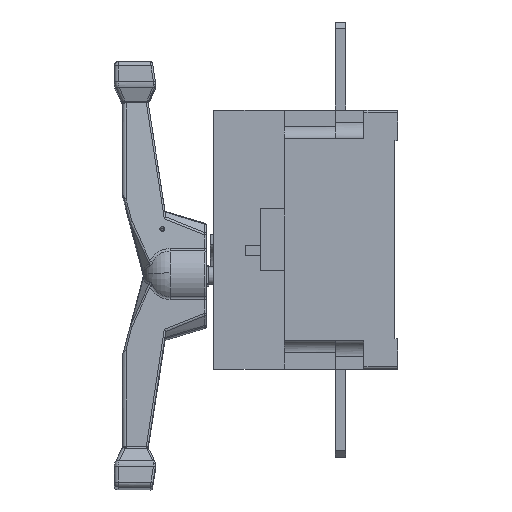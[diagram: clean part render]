
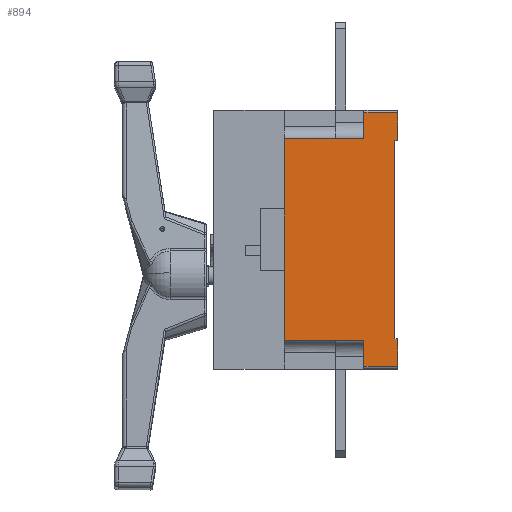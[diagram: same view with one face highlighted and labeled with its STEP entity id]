
A CAD part, left-side view. The second image highlights one B-rep face of the part: STEP entity #894.
In plain terms, the highlighted planar face has unit normal (-1, 0, 0).
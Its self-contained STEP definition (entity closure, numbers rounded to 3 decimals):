
#894 = ADVANCED_FACE ( 'NONE', ( #44018 ), #49396, .F. ) ;
#1069 = DIRECTION ( 'NONE',  ( 0., 1., 0. ) ) ;
#1484 = DIRECTION ( 'NONE',  ( 0., 0., -1. ) ) ;
#1544 = EDGE_CURVE ( 'NONE', #36901, #56916, #28977, .T. ) ;
#2174 = LINE ( 'NONE', #29940, #25202 ) ;
#2710 = ORIENTED_EDGE ( 'NONE', *, *, #36210, .F. ) ;
#3309 = VECTOR ( 'NONE', #1069, 1000. ) ;
#3620 = VECTOR ( 'NONE', #46026, 1000. ) ;
#4045 = VECTOR ( 'NONE', #46392, 1000. ) ;
#4417 = CARTESIAN_POINT ( 'NONE',  ( -246.5, 85.5, -78. ) ) ;
#5357 = CARTESIAN_POINT ( 'NONE',  ( -246.5, 24., 100. ) ) ;
#5422 = ORIENTED_EDGE ( 'NONE', *, *, #1544, .F. ) ;
#5719 = LINE ( 'NONE', #32320, #57005 ) ;
#5727 = CARTESIAN_POINT ( 'NONE',  ( -246.5, 24., 78.3 ) ) ;
#5987 = DIRECTION ( 'NONE',  ( 0., 0., 1. ) ) ;
#8301 = VECTOR ( 'NONE', #23011, 1000. ) ;
#8439 = CARTESIAN_POINT ( 'NONE',  ( -246.5, 24., -78.3 ) ) ;
#8494 = DIRECTION ( 'NONE',  ( 1., 0., 0. ) ) ;
#8511 = EDGE_CURVE ( 'NONE', #56255, #21963, #2174, .T. ) ;
#8619 = VERTEX_POINT ( 'NONE', #39202 ) ;
#8687 = DIRECTION ( 'NONE',  ( 0., 0., 1. ) ) ;
#8808 = CARTESIAN_POINT ( 'NONE',  ( -246.5, 85.5, 78. ) ) ;
#9343 = ORIENTED_EDGE ( 'NONE', *, *, #42356, .T. ) ;
#9541 = ORIENTED_EDGE ( 'NONE', *, *, #43394, .F. ) ;
#9899 = DIRECTION ( 'NONE',  ( 0., 1., 0. ) ) ;
#10190 = CARTESIAN_POINT ( 'NONE',  ( -246.5, 46., 78. ) ) ;
#10401 = CARTESIAN_POINT ( 'NONE',  ( -246.5, -2., -76.5 ) ) ;
#11124 = ORIENTED_EDGE ( 'NONE', *, *, #56620, .F. ) ;
#11507 = CARTESIAN_POINT ( 'NONE',  ( -246.5, -2., -76.5 ) ) ;
#11729 = DIRECTION ( 'NONE',  ( 0., 0., 1. ) ) ;
#12205 = CARTESIAN_POINT ( 'NONE',  ( -246.5, 24., -98. ) ) ;
#12983 = EDGE_CURVE ( 'NONE', #49390, #38819, #38176, .T. ) ;
#13106 = LINE ( 'NONE', #13665, #53897 ) ;
#13665 = CARTESIAN_POINT ( 'NONE',  ( -246.5, -2., 100. ) ) ;
#13688 = VECTOR ( 'NONE', #8687, 1000. ) ;
#14308 = VERTEX_POINT ( 'NONE', #12205 ) ;
#14381 = LINE ( 'NONE', #5727, #3620 ) ;
#14426 = ORIENTED_EDGE ( 'NONE', *, *, #25855, .F. ) ;
#14645 = CARTESIAN_POINT ( 'NONE',  ( -246.5, 24., -100. ) ) ;
#17327 = VECTOR ( 'NONE', #30386, 1000. ) ;
#17364 = VECTOR ( 'NONE', #5987, 1000. ) ;
#17678 = LINE ( 'NONE', #8439, #48241 ) ;
#17876 = CARTESIAN_POINT ( 'NONE',  ( -246.5, 46., -78. ) ) ;
#21318 = VECTOR ( 'NONE', #1484, 1000. ) ;
#21392 = CARTESIAN_POINT ( 'NONE',  ( -246.5, 0., -100. ) ) ;
#21963 = VERTEX_POINT ( 'NONE', #8808 ) ;
#22133 = LINE ( 'NONE', #44547, #32679 ) ;
#22684 = EDGE_CURVE ( 'NONE', #36793, #8619, #13106, .T. ) ;
#23011 = DIRECTION ( 'NONE',  ( 0., 1., 0. ) ) ;
#25202 = VECTOR ( 'NONE', #11729, 1000. ) ;
#25817 = CARTESIAN_POINT ( 'NONE',  ( -246.5, 85.5, -100. ) ) ;
#25855 = EDGE_CURVE ( 'NONE', #49728, #56255, #57892, .T. ) ;
#25947 = DIRECTION ( 'NONE',  ( 0., 1., 0. ) ) ;
#26276 = EDGE_CURVE ( 'NONE', #32585, #40057, #49471, .T. ) ;
#26337 = DIRECTION ( 'NONE',  ( 0., 0., 1. ) ) ;
#28192 = CARTESIAN_POINT ( 'NONE',  ( -246.5, 46., -98. ) ) ;
#28830 = ORIENTED_EDGE ( 'NONE', *, *, #22684, .F. ) ;
#28977 = LINE ( 'NONE', #55555, #17364 ) ;
#29015 = EDGE_CURVE ( 'NONE', #46077, #45041, #33716, .T. ) ;
#29627 = VECTOR ( 'NONE', #41482, 1000. ) ;
#29940 = CARTESIAN_POINT ( 'NONE',  ( -246.5, 85.5, -100. ) ) ;
#30386 = DIRECTION ( 'NONE',  ( 0., 0., 1. ) ) ;
#30688 = VECTOR ( 'NONE', #25947, 1000. ) ;
#30945 = CARTESIAN_POINT ( 'NONE',  ( -246.5, 46., -78. ) ) ;
#31731 = ORIENTED_EDGE ( 'NONE', *, *, #51583, .F. ) ;
#32320 = CARTESIAN_POINT ( 'NONE',  ( -246.5, -2., 76.5 ) ) ;
#32388 = LINE ( 'NONE', #28192, #4045 ) ;
#32585 = VERTEX_POINT ( 'NONE', #45255 ) ;
#32679 = VECTOR ( 'NONE', #26337, 1000. ) ;
#32786 = DIRECTION ( 'NONE',  ( 0., 1., 0. ) ) ;
#33200 = ORIENTED_EDGE ( 'NONE', *, *, #8511, .F. ) ;
#33716 = LINE ( 'NONE', #52232, #21318 ) ;
#34415 = VERTEX_POINT ( 'NONE', #44551 ) ;
#34559 = CARTESIAN_POINT ( 'NONE',  ( -246.5, 46., 78. ) ) ;
#36202 = DIRECTION ( 'NONE',  ( 0., 1., 0. ) ) ;
#36210 = EDGE_CURVE ( 'NONE', #14308, #34415, #55547, .T. ) ;
#36316 = LINE ( 'NONE', #36928, #3309 ) ;
#36793 = VERTEX_POINT ( 'NONE', #51877 ) ;
#36879 = VECTOR ( 'NONE', #32786, 1000. ) ;
#36901 = VERTEX_POINT ( 'NONE', #34559 ) ;
#36928 = CARTESIAN_POINT ( 'NONE',  ( -246.5, 46., 98. ) ) ;
#37267 = LINE ( 'NONE', #10401, #36879 ) ;
#37573 = EDGE_CURVE ( 'NONE', #14308, #45041, #32388, .T. ) ;
#38176 = LINE ( 'NONE', #5357, #29627 ) ;
#38425 = ORIENTED_EDGE ( 'NONE', *, *, #29015, .F. ) ;
#38819 = VERTEX_POINT ( 'NONE', #42162 ) ;
#39155 = AXIS2_PLACEMENT_3D ( 'NONE', #25817, #8494, #39257 ) ;
#39202 = CARTESIAN_POINT ( 'NONE',  ( -246.5, -2., 76.5 ) ) ;
#39257 = DIRECTION ( 'NONE',  ( 0., 0., -1. ) ) ;
#39563 = EDGE_CURVE ( 'NONE', #46077, #32585, #37267, .T. ) ;
#39635 = ORIENTED_EDGE ( 'NONE', *, *, #26276, .T. ) ;
#39940 = VERTEX_POINT ( 'NONE', #55387 ) ;
#40057 = VERTEX_POINT ( 'NONE', #51496 ) ;
#41157 = EDGE_CURVE ( 'NONE', #36793, #38819, #36316, .T. ) ;
#41360 = ORIENTED_EDGE ( 'NONE', *, *, #48886, .T. ) ;
#41482 = DIRECTION ( 'NONE',  ( 0., 0., 1. ) ) ;
#41550 = ORIENTED_EDGE ( 'NONE', *, *, #39563, .T. ) ;
#41735 = ORIENTED_EDGE ( 'NONE', *, *, #37573, .T. ) ;
#42162 = CARTESIAN_POINT ( 'NONE',  ( -246.5, 24., 98. ) ) ;
#42356 = EDGE_CURVE ( 'NONE', #36901, #21963, #50492, .T. ) ;
#43394 = EDGE_CURVE ( 'NONE', #8619, #40057, #5719, .T. ) ;
#44018 = FACE_OUTER_BOUND ( 'NONE', #56532, .T. ) ;
#44547 = CARTESIAN_POINT ( 'NONE',  ( -246.5, 46., -100. ) ) ;
#44551 = CARTESIAN_POINT ( 'NONE',  ( -246.5, 24., -78.3 ) ) ;
#44751 = CARTESIAN_POINT ( 'NONE',  ( -246.5, 24., 78.3 ) ) ;
#45041 = VERTEX_POINT ( 'NONE', #47723 ) ;
#45255 = CARTESIAN_POINT ( 'NONE',  ( -246.5, 0., -76.5 ) ) ;
#46026 = DIRECTION ( 'NONE',  ( 0., 1., 0. ) ) ;
#46077 = VERTEX_POINT ( 'NONE', #11507 ) ;
#46392 = DIRECTION ( 'NONE',  ( 0., -1., 0. ) ) ;
#47723 = CARTESIAN_POINT ( 'NONE',  ( -246.5, -2., -98. ) ) ;
#48241 = VECTOR ( 'NONE', #36202, 1000. ) ;
#48886 = EDGE_CURVE ( 'NONE', #49390, #56916, #14381, .T. ) ;
#49390 = VERTEX_POINT ( 'NONE', #44751 ) ;
#49396 = PLANE ( 'NONE',  #39155 ) ;
#49471 = LINE ( 'NONE', #21392, #17327 ) ;
#49728 = VERTEX_POINT ( 'NONE', #30945 ) ;
#49785 = DIRECTION ( 'NONE',  ( 0., 0., -1. ) ) ;
#50492 = LINE ( 'NONE', #10190, #8301 ) ;
#50652 = CARTESIAN_POINT ( 'NONE',  ( -246.5, 46., 78.3 ) ) ;
#51496 = CARTESIAN_POINT ( 'NONE',  ( -246.5, 0., 76.5 ) ) ;
#51583 = EDGE_CURVE ( 'NONE', #39940, #49728, #22133, .T. ) ;
#51877 = CARTESIAN_POINT ( 'NONE',  ( -246.5, -2., 98. ) ) ;
#52232 = CARTESIAN_POINT ( 'NONE',  ( -246.5, -2., -100. ) ) ;
#53897 = VECTOR ( 'NONE', #49785, 1000. ) ;
#54401 = ORIENTED_EDGE ( 'NONE', *, *, #12983, .F. ) ;
#55387 = CARTESIAN_POINT ( 'NONE',  ( -246.5, 46., -78.3 ) ) ;
#55547 = LINE ( 'NONE', #14645, #13688 ) ;
#55555 = CARTESIAN_POINT ( 'NONE',  ( -246.5, 46., -100. ) ) ;
#56255 = VERTEX_POINT ( 'NONE', #4417 ) ;
#56532 = EDGE_LOOP ( 'NONE', ( #14426, #31731, #11124, #2710, #41735, #38425, #41550, #39635, #9541, #28830, #58882, #54401, #41360, #5422, #9343, #33200 ) ) ;
#56620 = EDGE_CURVE ( 'NONE', #34415, #39940, #17678, .T. ) ;
#56916 = VERTEX_POINT ( 'NONE', #50652 ) ;
#57005 = VECTOR ( 'NONE', #9899, 1000. ) ;
#57892 = LINE ( 'NONE', #17876, #30688 ) ;
#58882 = ORIENTED_EDGE ( 'NONE', *, *, #41157, .T. ) ;
